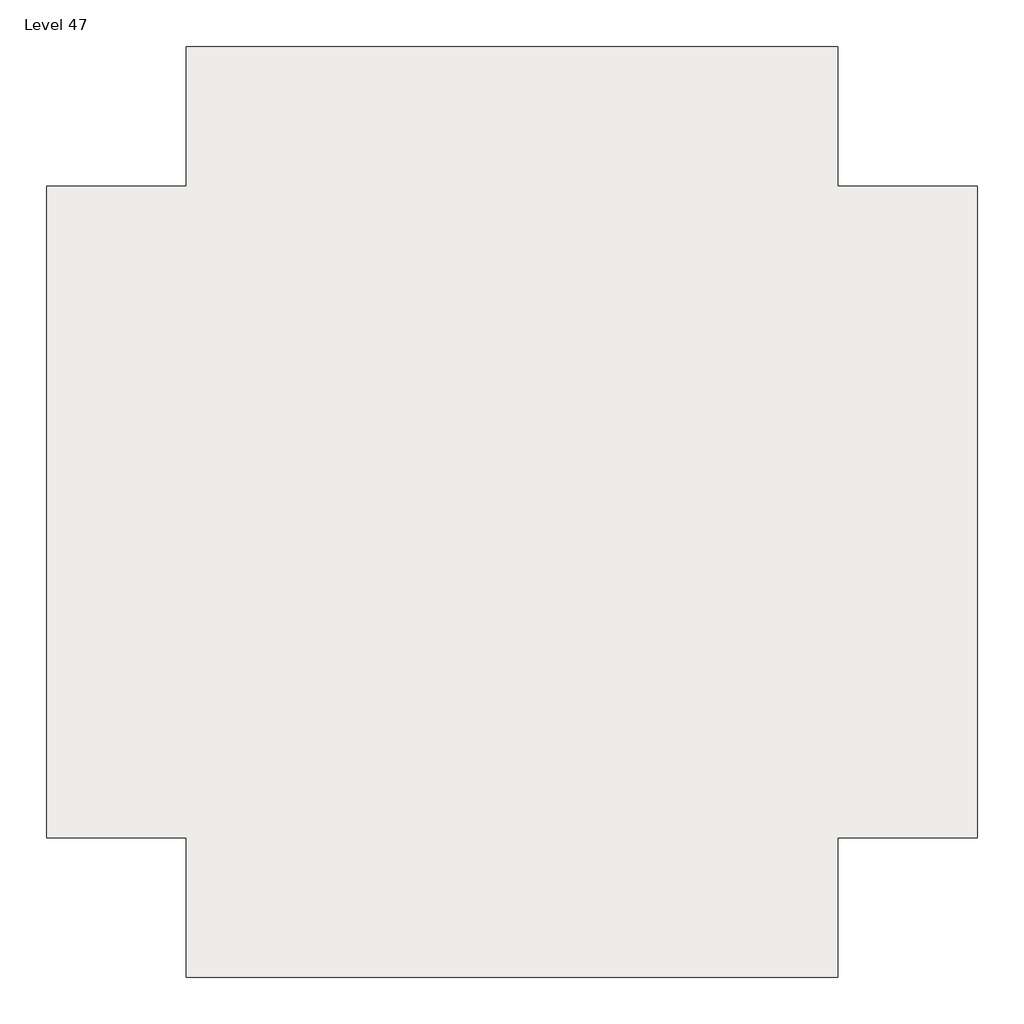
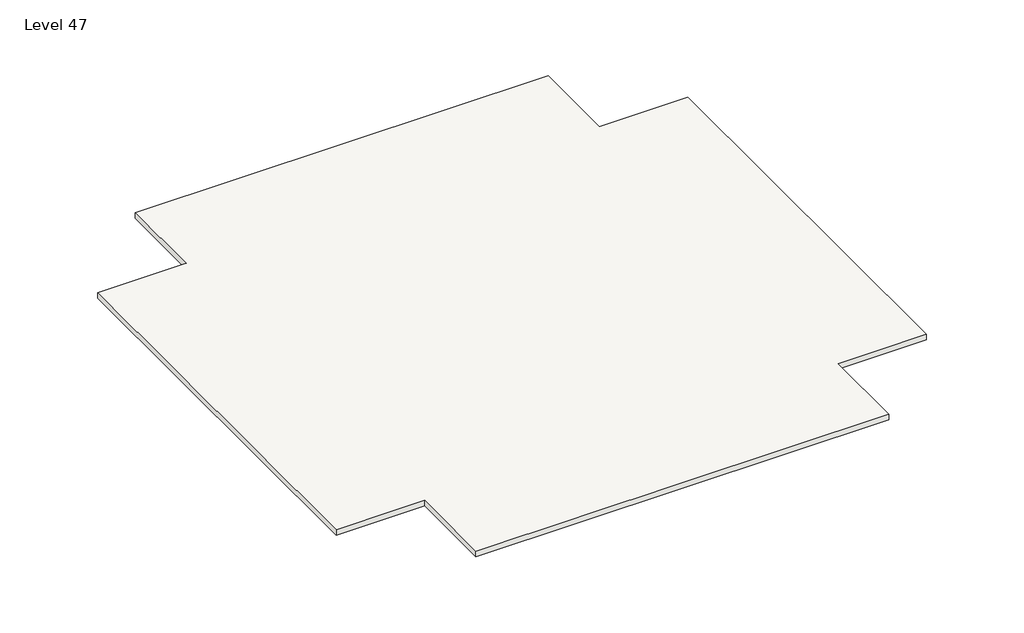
# One storey: 2 slabs.
"""IFC4 building model written with IfcOpenShell, lengths in millimetres."""

import ifcopenshell
import ifcopenshell.guid

model = None  # the IFC model being written
_history = None  # IfcOwnerHistory: only IFC2X3 demands one
_inside = {}  # id of a spatial element -> (the spatial element, [elements in it])
_under = {}  # id of a project, library or spatial element -> (it, [spatial elements below it])
_declared = {}  # id of a project -> (the project, [libraries it declares])
_typed = {}  # id of a type object -> (the type object, [elements of that type])
_made_of = {}  # id of a material, layer set ... -> (it, [elements and type objects made of it])


def new_model(schema):
    """Start an empty IFC model of exactly this schema.

    Asked for "IFC4X3", IfcOpenShell would pick the latest addendum, in which some entities
    have other attributes; the version numbers below select the first issue.
    IFC2X3 requires an IfcOwnerHistory on every rooted entity: one is made here for all.
    """
    global model, _history
    if schema == "IFC4X3":
        model = ifcopenshell.file(schema_version=(4, 3, 0, 0))
    else:
        model = ifcopenshell.file(schema=schema)
    _inside.clear()
    _under.clear()
    _declared.clear()
    _typed.clear()
    _made_of.clear()
    _history = None
    if model.schema == "IFC2X3":
        org = make("IfcOrganization", Name="unknown")
        user = make(
            "IfcPersonAndOrganization",
            ThePerson=make("IfcPerson", FamilyName="unknown"),
            TheOrganization=org,
        )
        app = make(
            "IfcApplication",
            ApplicationDeveloper=org,
            Version="unknown",
            ApplicationFullName="unknown",
            ApplicationIdentifier="unknown",
        )
        _history = make(
            "IfcOwnerHistory",
            OwningUser=user,
            OwningApplication=app,
            ChangeAction="ADDED",
            CreationDate=0,
        )
    return model


def make(cls, **values):
    """One entity of the class cls with the attributes given. An attribute that is None is left unset."""
    return model.create_entity(
        cls, **{name: value for name, value in values.items() if value is not None}
    )


def rooted(cls, **values):
    """An entity with a GlobalId (a new one), such as an element, a storey or a relation."""
    return make(cls, GlobalId=ifcopenshell.guid.new(), OwnerHistory=_history, **values)


def si_unit(unit_type, name, prefix=None):
    """IfcSIUnit, for example si_unit("LENGTHUNIT", "METRE", prefix="MILLI")."""
    return make("IfcSIUnit", UnitType=unit_type, Prefix=prefix, Name=name)


def assignment(units):
    """IfcUnitAssignment: the units of a project."""
    return None if units is None else make("IfcUnitAssignment", Units=units)


def point(xyz):
    """IfcCartesianPoint."""
    return None if xyz is None else make("IfcCartesianPoint", Coordinates=xyz)


def direction(xyz):
    """IfcDirection."""
    return None if xyz is None else make("IfcDirection", DirectionRatios=xyz)


def frame(location, z_axis=None, x_axis=None):
    """IfcAxis2Placement3D, a coordinate frame: its origin and axes. An axis left out is left unset."""
    return make(
        "IfcAxis2Placement3D",
        Location=point(location),
        Axis=direction(z_axis),
        RefDirection=direction(x_axis),
    )


def origin():
    """The frame at (0, 0, 0) with its axes left unset."""
    return frame((0.0, 0.0, 0.0))


def place(relative_to, where):
    """IfcLocalPlacement: puts the frame where relative to a parent placement (None: the world)."""
    return make(
        "IfcLocalPlacement", PlacementRelTo=relative_to, RelativePlacement=where
    )


def context(
    kind, dimensions, precision=None, world=None, true_north=None, identifier=None
):
    """IfcGeometricRepresentationContext, for example the 3D "Model" context."""
    return make(
        "IfcGeometricRepresentationContext",
        ContextIdentifier=identifier,
        ContextType=kind,
        CoordinateSpaceDimension=dimensions,
        Precision=precision,
        WorldCoordinateSystem=world,
        TrueNorth=true_north,
    )


def project(units=None, contexts=None):
    """IfcProject with its units and contexts."""
    return rooted(
        "IfcProject",
        Name="project",
        RepresentationContexts=contexts,
        UnitsInContext=assignment(units),
    )


def spatial(cls, under=None, at=None, **own):
    """A site, building, storey or space (cls), placed at a placement, below another one or the project."""
    s = rooted(cls, ObjectPlacement=at, **own)
    if under is not None:
        _under.setdefault(under.id(), (under, []))[1].append(s)
    return s


def polyline(points):
    """IfcPolyline through the points."""
    return make("IfcPolyline", Points=[point(p) for p in points])


def outline(outer, holes=None, kind="AREA"):
    """IfcArbitraryClosedProfileDef: a profile drawn as a closed curve; with holes, ...WithVoids."""
    if holes is None:
        return make("IfcArbitraryClosedProfileDef", ProfileType=kind, OuterCurve=outer)
    return make(
        "IfcArbitraryProfileDefWithVoids",
        ProfileType=kind,
        OuterCurve=outer,
        InnerCurves=holes,
    )


def extrude(swept, where, along, depth):
    """IfcExtrudedAreaSolid: the profile swept, set in the frame where, extruded along a direction by depth."""
    return make(
        "IfcExtrudedAreaSolid",
        SweptArea=swept,
        Position=where,
        ExtrudedDirection=direction(along),
        Depth=depth,
    )


def shape(context_of_items, identifier, shape_type, items):
    """IfcShapeRepresentation: the items that make up one representation, for example the "Body"."""
    return make(
        "IfcShapeRepresentation",
        ContextOfItems=context_of_items,
        RepresentationIdentifier=identifier,
        RepresentationType=shape_type,
        Items=items,
    )


def made_of(thing, what):
    """Note that an element or type object is made of a material, layer set ...; save() writes the relation."""
    if what is not None:
        _made_of.setdefault(what.id(), (what, []))[1].append(thing)
    return thing


def element(
    cls,
    number,
    at=None,
    inside=None,
    cuts=None,
    type_object=None,
    material=None,
    context=None,
    identifier="Body",
    shape_type=None,
    held_by="IfcProductDefinitionShape",
    body=None,
    shapes=None,
    **own,
):
    """One element of the class cls, such as IfcWall. Its Tag is "e" and its number.

    at: its placement. inside: the storey or other place that contains it. cuts: it is an
    opening in that element (IfcRelVoidsElement). A single representation is given by context,
    identifier, shape_type and body (its items); several are given by shapes. held_by: the class
    of the entity that holds the representations. save() writes the other relations.
    """
    e = rooted(cls, Tag="e%d" % number, ObjectPlacement=at, **own)
    if body is not None:
        shapes = [shape(context, identifier, shape_type, body)]
    if shapes is not None:
        e.Representation = make(held_by, Representations=shapes)
    if inside is not None:
        _inside.setdefault(inside.id(), (inside, []))[1].append(e)
    if cuts is not None:
        rooted(
            "IfcRelVoidsElement", RelatingBuildingElement=cuts, RelatedOpeningElement=e
        )
    if type_object is not None:
        _typed.setdefault(type_object.id(), (type_object, []))[1].append(e)
    return made_of(e, material)


def aggregate(whole, parts):
    """IfcRelAggregates: a whole, such as a stair, and the parts it consists of."""
    return rooted("IfcRelAggregates", RelatingObject=whole, RelatedObjects=parts)


def save(model, path):
    """Write the relations noted so far, then the file.

    IfcRelAggregates (storeys below a building ...), IfcRelContainedInSpatialStructure (elements
    in a storey), IfcRelDefinesByType, IfcRelAssociatesMaterial and IfcRelDeclares: one each for
    every whole, place, type object, material and project.
    """
    for whole, parts in _under.values():
        aggregate(whole, parts)
    for where, things in _inside.values():
        rooted(
            "IfcRelContainedInSpatialStructure",
            RelatedElements=things,
            RelatingStructure=where,
        )
    for kind, things in _typed.values():
        rooted("IfcRelDefinesByType", RelatedObjects=things, RelatingType=kind)
    for what, things in _made_of.values():
        rooted("IfcRelAssociatesMaterial", RelatedObjects=things, RelatingMaterial=what)
    for by, libraries in _declared.values():
        rooted("IfcRelDeclares", RelatingContext=by, RelatedDefinitions=libraries)
    model.write(path)


model = new_model("IFC4")

# Units and contexts
model_context = context("Model", 3, world=origin())
ifc_project = project(units=[si_unit("LENGTHUNIT", "METRE", prefix="MILLI")], contexts=[model_context])

# Site, building, storey
site = spatial("IfcSite", under=ifc_project)
building = spatial("IfcBuilding", under=site)
storey = spatial("IfcBuildingStorey", under=building, Name="Level 47", Elevation=140208.0)

# Slabs
placement = place(None, origin())
element("IfcSlab", 1, ObjectType="Generic - 12\"", at=placement, inside=storey, context=model_context, shape_type="SweptSolid", body=[
    extrude(outline(polyline([(-7150.3629456, 4479.6634547), (-7150.3629456, 9051.6634547), (14185.6370544, 9051.6634547), (14185.6370544, 4479.6634547), (18757.6370544, 4479.6634547), (18757.6370544, -16856.3365453), (14185.6370544, -16856.3365453), (14185.6370544, -21428.3365453), (-7150.3629456, -21428.3365453), (-7150.3629456, -16856.3365453), (-11722.3629456, -16856.3365453), (-11722.3629456, 4479.6634547), (-7150.3629456, 4479.6634547)])), frame((0.0, 0.0, 139903.2), z_axis=(0.0, 0.0, 1.0), x_axis=(1.0, 0.0, 0.0)), (0.0, 0.0, 1.0), 304.8),
])
element("IfcSlab", 2, ObjectType="Generic - 12\"", at=placement, inside=storey, context=model_context, shape_type="SweptSolid", body=[
    extrude(outline(polyline([(-7150.3629456, 4479.6634547), (-7150.3629456, 9051.6634547), (14185.6370544, 9051.6634547), (14185.6370544, 4479.6634547), (18757.6370544, 4479.6634547), (18757.6370544, -16856.3365453), (14185.6370544, -16856.3365453), (14185.6370544, -21428.3365453), (-7150.3629456, -21428.3365453), (-7150.3629456, -16856.3365453), (-11722.3629456, -16856.3365453), (-11722.3629456, 4479.6634547), (-7150.3629456, 4479.6634547)])), frame((0.0, 0.0, 139903.2), z_axis=(0.0, 0.0, 1.0), x_axis=(1.0, 0.0, 0.0)), (0.0, 0.0, 1.0), 304.8),
])

save(model, "model.ifc")
